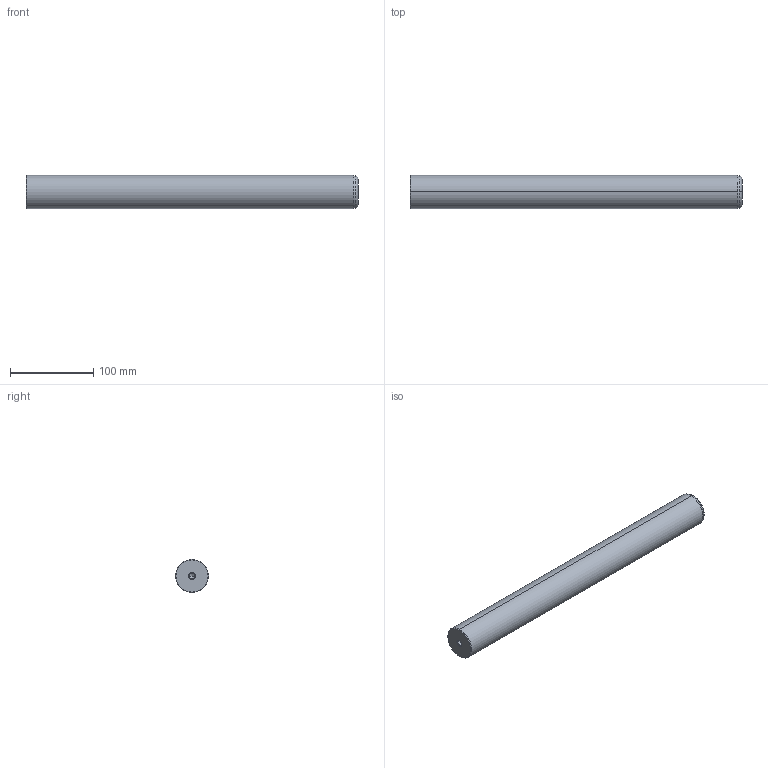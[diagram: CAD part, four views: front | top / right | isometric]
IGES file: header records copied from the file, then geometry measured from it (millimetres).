
Start section: START RECORD GO HERE.
Global section: file name: 720-40x400.igs; native system: DASSAULT SYSTEMES CATIA V5 R20 - www.3ds.com; preprocessor: CATIA Version 5 Release 20 ; author: Utente; organization: NB04-ASUS; date: 20201230.225522; units: millimetre
Bounding box: 400 x 40 x 40 mm (x, y, z)
Surface area: 53449.6 mm2 (no closed solid volume)
Topology: 0 solids, 0 shells, 22 faces, 120 edges, 116 vertices
Faces by surface type: revolution 20, plane 2
